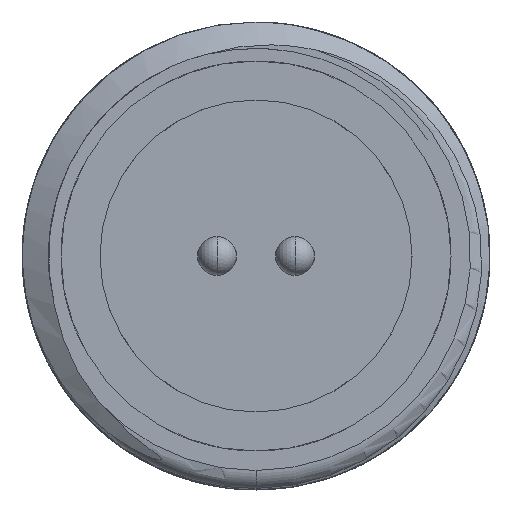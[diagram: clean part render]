
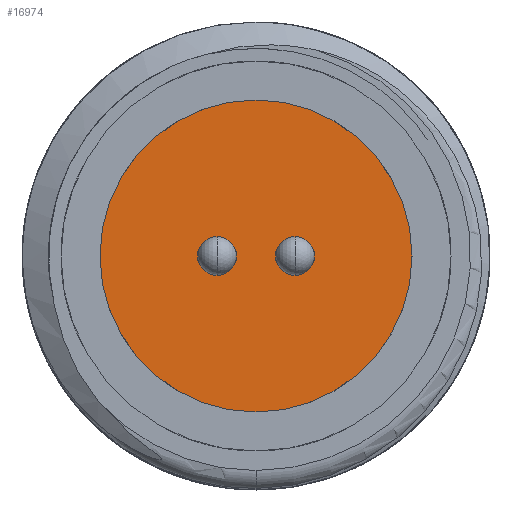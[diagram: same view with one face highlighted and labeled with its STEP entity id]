
A CAD part, left-side view. The second image highlights one B-rep face of the part: STEP entity #16974.
In plain terms, the highlighted planar face has unit normal (-1, 0, 0).
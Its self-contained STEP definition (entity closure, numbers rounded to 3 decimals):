
#22 = DIRECTION ( 'NONE',  ( 0., 0., 1. ) ) ;
#502 = VERTEX_POINT ( 'NONE', #7217 ) ;
#1164 = AXIS2_PLACEMENT_3D ( 'NONE', #3391, #19880, #11993 ) ;
#1228 = CARTESIAN_POINT ( 'NONE',  ( 11., 0., 0. ) ) ;
#1560 = AXIS2_PLACEMENT_3D ( 'NONE', #10448, #7221, #13797 ) ;
#1643 = CARTESIAN_POINT ( 'NONE',  ( 11., 0., 0. ) ) ;
#3391 = CARTESIAN_POINT ( 'NONE',  ( 11., 1., 0. ) ) ;
#3469 = DIRECTION ( 'NONE',  ( 1., 0., 0. ) ) ;
#3907 = DIRECTION ( 'NONE',  ( -1., 0., 0. ) ) ;
#4637 = AXIS2_PLACEMENT_3D ( 'NONE', #1228, #9843, #8126 ) ;
#4749 = ORIENTED_EDGE ( 'NONE', *, *, #17943, .T. ) ;
#4925 = CIRCLE ( 'NONE', #18712, 0.5 ) ;
#5112 = CARTESIAN_POINT ( 'NONE',  ( 11., 0., 4. ) ) ;
#5147 = VERTEX_POINT ( 'NONE', #9864 ) ;
#5297 = FACE_BOUND ( 'NONE', #7326, .T. ) ;
#5324 = VERTEX_POINT ( 'NONE', #5112 ) ;
#5805 = VERTEX_POINT ( 'NONE', #19240 ) ;
#5840 = AXIS2_PLACEMENT_3D ( 'NONE', #1643, #19754, #22 ) ;
#6127 = ORIENTED_EDGE ( 'NONE', *, *, #15296, .F. ) ;
#6320 = EDGE_CURVE ( 'NONE', #502, #5147, #7043, .T. ) ;
#6443 = EDGE_CURVE ( 'NONE', #5324, #6994, #8762, .T. ) ;
#6602 = CARTESIAN_POINT ( 'NONE',  ( 11., 0., 0. ) ) ;
#6994 = VERTEX_POINT ( 'NONE', #19539 ) ;
#7043 = CIRCLE ( 'NONE', #11169, 0.5 ) ;
#7217 = CARTESIAN_POINT ( 'NONE',  ( 11., 1., -0.5 ) ) ;
#7221 = DIRECTION ( 'NONE',  ( -1., 0., 0. ) ) ;
#7326 = EDGE_LOOP ( 'NONE', ( #20045, #9440 ) ) ;
#8126 = DIRECTION ( 'NONE',  ( 0., 0., 1. ) ) ;
#8164 = EDGE_CURVE ( 'NONE', #5805, #17130, #17396, .T. ) ;
#8396 = EDGE_LOOP ( 'NONE', ( #17021, #6127 ) ) ;
#8633 = FACE_OUTER_BOUND ( 'NONE', #18782, .T. ) ;
#8762 = CIRCLE ( 'NONE', #4637, 4. ) ;
#9440 = ORIENTED_EDGE ( 'NONE', *, *, #11359, .F. ) ;
#9843 = DIRECTION ( 'NONE',  ( -1., 0., 0. ) ) ;
#9864 = CARTESIAN_POINT ( 'NONE',  ( 11., 1., 0.5 ) ) ;
#9933 = FACE_BOUND ( 'NONE', #8396, .T. ) ;
#10351 = PLANE ( 'NONE',  #12778 ) ;
#10448 = CARTESIAN_POINT ( 'NONE',  ( 11., -1., 0. ) ) ;
#11169 = AXIS2_PLACEMENT_3D ( 'NONE', #21064, #12755, #13081 ) ;
#11359 = EDGE_CURVE ( 'NONE', #17130, #5805, #4925, .T. ) ;
#11993 = DIRECTION ( 'NONE',  ( 0., 0., -1. ) ) ;
#12364 = CIRCLE ( 'NONE', #5840, 4. ) ;
#12755 = DIRECTION ( 'NONE',  ( -1., 0., 0. ) ) ;
#12778 = AXIS2_PLACEMENT_3D ( 'NONE', #6602, #3469, #13596 ) ;
#13081 = DIRECTION ( 'NONE',  ( 0., 0., -1. ) ) ;
#13240 = ORIENTED_EDGE ( 'NONE', *, *, #6443, .T. ) ;
#13383 = CARTESIAN_POINT ( 'NONE',  ( 11., -1., 0.5 ) ) ;
#13596 = DIRECTION ( 'NONE',  ( 0., 0., -1. ) ) ;
#13797 = DIRECTION ( 'NONE',  ( 0., 0., -1. ) ) ;
#14601 = CIRCLE ( 'NONE', #1164, 0.5 ) ;
#15296 = EDGE_CURVE ( 'NONE', #5147, #502, #14601, .T. ) ;
#16974 = ADVANCED_FACE ( 'NONE', ( #5297, #9933, #8633 ), #10351, .F. ) ;
#17021 = ORIENTED_EDGE ( 'NONE', *, *, #6320, .F. ) ;
#17067 = DIRECTION ( 'NONE',  ( 0., 0., -1. ) ) ;
#17130 = VERTEX_POINT ( 'NONE', #13383 ) ;
#17396 = CIRCLE ( 'NONE', #1560, 0.5 ) ;
#17943 = EDGE_CURVE ( 'NONE', #6994, #5324, #12364, .T. ) ;
#18688 = CARTESIAN_POINT ( 'NONE',  ( 11., -1., 0. ) ) ;
#18712 = AXIS2_PLACEMENT_3D ( 'NONE', #18688, #3907, #17067 ) ;
#18782 = EDGE_LOOP ( 'NONE', ( #13240, #4749 ) ) ;
#19240 = CARTESIAN_POINT ( 'NONE',  ( 11., -1., -0.5 ) ) ;
#19539 = CARTESIAN_POINT ( 'NONE',  ( 11., 0., -4. ) ) ;
#19754 = DIRECTION ( 'NONE',  ( -1., 0., 0. ) ) ;
#19880 = DIRECTION ( 'NONE',  ( -1., 0., 0. ) ) ;
#20045 = ORIENTED_EDGE ( 'NONE', *, *, #8164, .F. ) ;
#21064 = CARTESIAN_POINT ( 'NONE',  ( 11., 1., 0. ) ) ;
